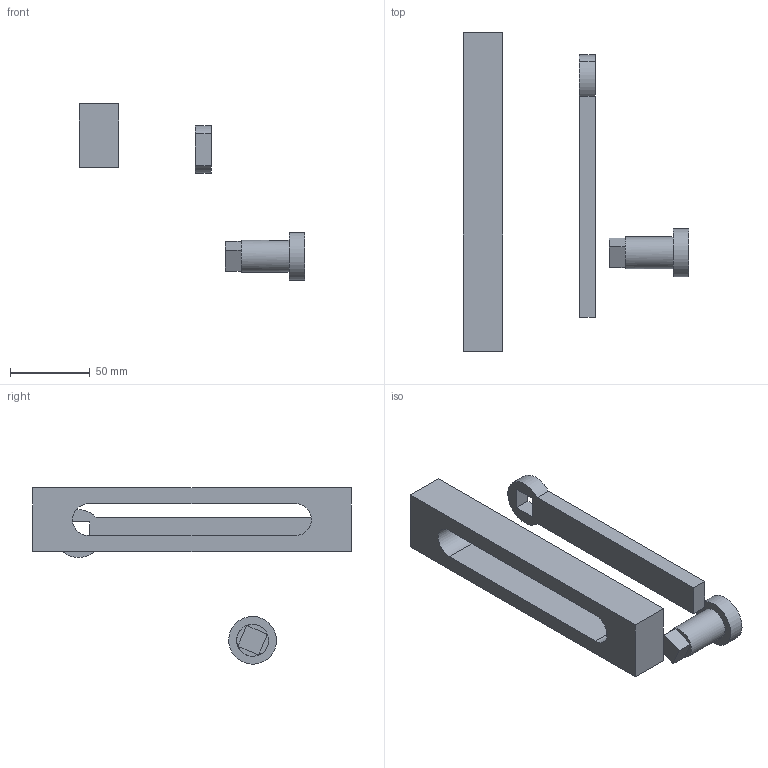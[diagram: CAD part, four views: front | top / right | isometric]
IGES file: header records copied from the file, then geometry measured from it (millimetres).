
Start section: DesignModeler IGES Output Version 5.3
Global section: file name: NoName; native system:  By UGS Corp.; preprocessor: XPlus GENERIC/IGES 3.0; author: crathod; organization:  ; date: 20110324.093618; units: metre
Bounding box: 141.86 x 200 x 110.77 mm (x, y, z)
Volume: 177948 mm3; surface area: 45776.7 mm2
Topology: 3 solids, 3 shells, 35 faces, 79 edges, 51 vertices
Faces by surface type: plane 28, cylinder 7
Full cylindrical faces by diameter (mm): 20 x1, 30 x1
